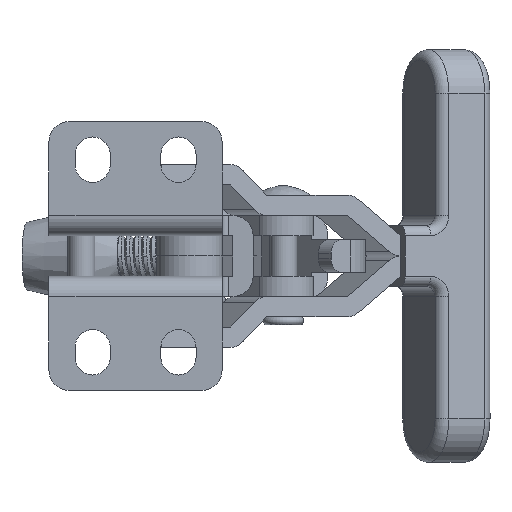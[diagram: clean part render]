
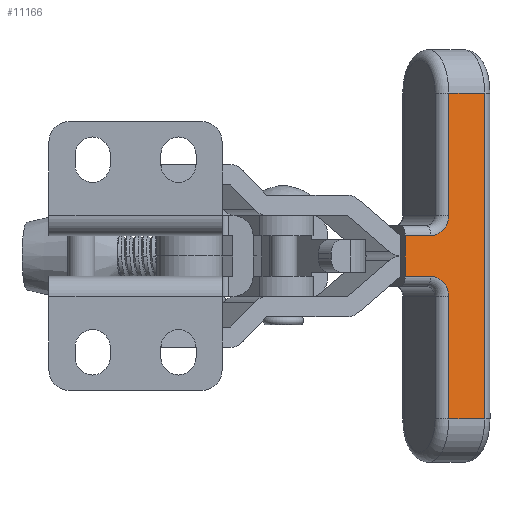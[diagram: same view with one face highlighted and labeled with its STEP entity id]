
A CAD part, front view. The second image highlights one B-rep face of the part: STEP entity #11166.
In plain terms, the highlighted planar face has unit normal (0.469, -0.883, 0) as drawn and (0, 1, 0) by its records, which use the part's own axes.
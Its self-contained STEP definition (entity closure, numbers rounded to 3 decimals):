
#1037=PLANE('',#11954);
#1533=FACE_OUTER_BOUND('',#2183,.T.);
#2183=EDGE_LOOP('',(#9777,#9778,#9779,#9780,#9781,#9782,#9783,#9784,#9785,
#9786));
#3051=LINE('',#24923,#3988);
#3143=LINE('',#25183,#4080);
#3144=LINE('',#25185,#4081);
#3145=LINE('',#25187,#4082);
#3146=LINE('',#25191,#4083);
#3147=LINE('',#25193,#4084);
#3148=LINE('',#25195,#4085);
#3149=LINE('',#25198,#4086);
#3988=VECTOR('',#13690,1000.);
#4080=VECTOR('',#13914,1000.);
#4081=VECTOR('',#13917,1000.);
#4082=VECTOR('',#13918,1000.);
#4083=VECTOR('',#13921,1000.);
#4084=VECTOR('',#13922,1000.);
#4085=VECTOR('',#13923,1000.);
#4086=VECTOR('',#13926,1000.);
#4407=CIRCLE('',#11955,3.);
#4408=CIRCLE('',#11956,3.);
#5283=VERTEX_POINT('',#24882);
#5287=VERTEX_POINT('',#24891);
#5300=VERTEX_POINT('',#24921);
#5402=VERTEX_POINT('',#25181);
#5403=VERTEX_POINT('',#25186);
#5404=VERTEX_POINT('',#25188);
#5405=VERTEX_POINT('',#25190);
#5406=VERTEX_POINT('',#25192);
#5407=VERTEX_POINT('',#25194);
#5408=VERTEX_POINT('',#25196);
#6786=EDGE_CURVE('',#5300,#5283,#3051,.T.);
#6916=EDGE_CURVE('',#5287,#5402,#3143,.T.);
#6917=EDGE_CURVE('',#5402,#5283,#3144,.T.);
#6918=EDGE_CURVE('',#5300,#5403,#3145,.T.);
#6919=EDGE_CURVE('',#5404,#5403,#4407,.T.);
#6920=EDGE_CURVE('',#5404,#5405,#3146,.T.);
#6921=EDGE_CURVE('',#5406,#5405,#3147,.T.);
#6922=EDGE_CURVE('',#5406,#5407,#3148,.T.);
#6923=EDGE_CURVE('',#5408,#5407,#4408,.T.);
#6924=EDGE_CURVE('',#5408,#5287,#3149,.T.);
#9777=ORIENTED_EDGE('',*,*,#6916,.T.);
#9778=ORIENTED_EDGE('',*,*,#6917,.T.);
#9779=ORIENTED_EDGE('',*,*,#6786,.F.);
#9780=ORIENTED_EDGE('',*,*,#6918,.T.);
#9781=ORIENTED_EDGE('',*,*,#6919,.F.);
#9782=ORIENTED_EDGE('',*,*,#6920,.T.);
#9783=ORIENTED_EDGE('',*,*,#6921,.F.);
#9784=ORIENTED_EDGE('',*,*,#6922,.T.);
#9785=ORIENTED_EDGE('',*,*,#6923,.F.);
#9786=ORIENTED_EDGE('',*,*,#6924,.T.);
#11166=ADVANCED_FACE('',(#1533),#1037,.F.);
#11954=AXIS2_PLACEMENT_3D('',#25184,#13915,#13916);
#11955=AXIS2_PLACEMENT_3D('',#25189,#13919,#13920);
#11956=AXIS2_PLACEMENT_3D('',#25197,#13924,#13925);
#13690=DIRECTION('',(-1.,0.,0.));
#13914=DIRECTION('',(-1.,0.,0.));
#13915=DIRECTION('center_axis',(0.,-1.,0.));
#13916=DIRECTION('ref_axis',(0.,0.,-1.));
#13917=DIRECTION('',(0.,0.,1.));
#13918=DIRECTION('',(0.,0.,-1.));
#13919=DIRECTION('center_axis',(0.,1.,0.));
#13920=DIRECTION('ref_axis',(0.,0.,-1.));
#13921=DIRECTION('',(1.,0.,0.));
#13922=DIRECTION('',(0.,0.,1.));
#13923=DIRECTION('',(-1.,0.,0.));
#13924=DIRECTION('center_axis',(0.,1.,0.));
#13925=DIRECTION('ref_axis',(0.,0.,-1.));
#13926=DIRECTION('',(0.,0.,-1.));
#24882=CARTESIAN_POINT('',(1705.323,11.3,487.231));
#24891=CARTESIAN_POINT('',(1711.323,11.3,439.031));
#24921=CARTESIAN_POINT('',(1711.323,11.3,487.231));
#24923=CARTESIAN_POINT('',(1712.823,11.3,487.231));
#25181=CARTESIAN_POINT('',(1705.323,11.3,439.031));
#25183=CARTESIAN_POINT('',(1712.823,11.3,439.031));
#25184=CARTESIAN_POINT('Origin',(1712.823,11.3,439.031));
#25185=CARTESIAN_POINT('',(1705.323,11.3,487.231));
#25186=CARTESIAN_POINT('',(1711.323,11.3,469.131));
#25187=CARTESIAN_POINT('',(1711.323,11.3,467.631));
#25188=CARTESIAN_POINT('',(1714.323,11.3,466.131));
#25189=CARTESIAN_POINT('Origin',(1714.323,11.3,469.131));
#25190=CARTESIAN_POINT('',(1718.623,11.3,466.131));
#25191=CARTESIAN_POINT('',(1718.623,11.3,466.131));
#25192=CARTESIAN_POINT('',(1718.623,11.3,460.131));
#25193=CARTESIAN_POINT('',(1718.623,11.3,458.631));
#25194=CARTESIAN_POINT('',(1714.323,11.3,460.131));
#25195=CARTESIAN_POINT('',(1712.823,11.3,460.131));
#25196=CARTESIAN_POINT('',(1711.323,11.3,457.131));
#25197=CARTESIAN_POINT('Origin',(1714.323,11.3,457.131));
#25198=CARTESIAN_POINT('',(1711.323,11.3,439.031));
